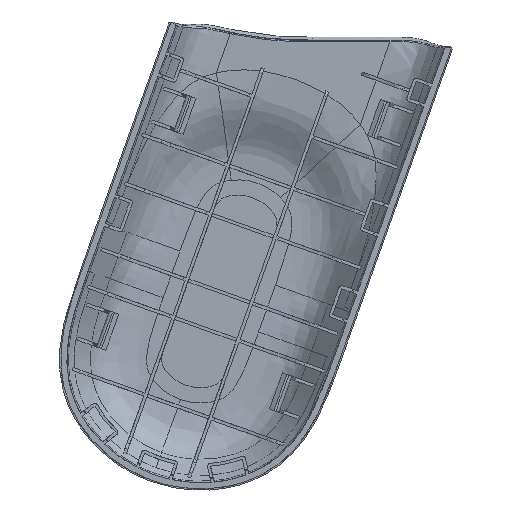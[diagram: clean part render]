
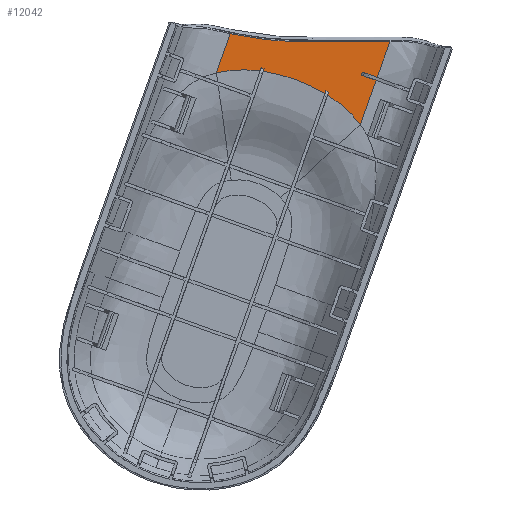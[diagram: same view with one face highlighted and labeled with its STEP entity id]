
A CAD part, left-side view. The second image highlights one B-rep face of the part: STEP entity #12042.
In plain terms, the highlighted planar face has unit normal (-1, 0, 0).
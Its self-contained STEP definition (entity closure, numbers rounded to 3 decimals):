
#648=CARTESIAN_POINT('',(264.5,130.891,595.084));
#683=CARTESIAN_POINT('',(264.5,140.587,568.009));
#717=DIRECTION('',(0.,-1.,0.));
#718=VECTOR('',#717,25.287);
#719=CARTESIAN_POINT('',(264.5,156.178,595.082));
#720=LINE('',#719,#718);
#721=DIRECTION('',(0.,0.337,-0.941));
#722=VECTOR('',#721,12.427);
#723=CARTESIAN_POINT('',(264.5,130.891,595.084));
#724=LINE('',#723,#722);
#725=DIRECTION('',(0.,0.337,-0.941));
#726=VECTOR('',#725,15.332);
#727=CARTESIAN_POINT('',(264.5,135.418,582.444));
#728=LINE('',#727,#726);
#729=CARTESIAN_POINT('',(264.5,151.271,577.621));
#730=CARTESIAN_POINT('',(264.5,149.808,576.696));
#731=CARTESIAN_POINT('',(264.5,147.065,574.751));
#732=CARTESIAN_POINT('',(264.5,143.414,571.464));
#733=CARTESIAN_POINT('',(264.5,141.459,569.184));
#734=CARTESIAN_POINT('',(264.5,140.587,568.009));
#736=CARTESIAN_POINT('',(264.5,161.879,582.706));
#737=CARTESIAN_POINT('',(264.5,160.063,582.048));
#738=CARTESIAN_POINT('',(264.5,156.625,580.631));
#739=CARTESIAN_POINT('',(264.5,153.572,579.014));
#740=CARTESIAN_POINT('',(264.5,152.142,578.155));
#742=CARTESIAN_POINT('',(264.5,172.292,585.371));
#743=CARTESIAN_POINT('',(264.5,170.657,585.129));
#744=CARTESIAN_POINT('',(264.5,167.286,584.444));
#745=CARTESIAN_POINT('',(264.5,163.715,583.353));
#746=CARTESIAN_POINT('',(264.5,161.879,582.706));
#748=CARTESIAN_POINT('',(264.5,187.66,584.868));
#749=CARTESIAN_POINT('',(264.5,186.231,585.223));
#750=CARTESIAN_POINT('',(264.5,183.26,585.744));
#751=CARTESIAN_POINT('',(264.5,178.35,585.963));
#752=CARTESIAN_POINT('',(264.5,175.01,585.725));
#753=CARTESIAN_POINT('',(264.5,173.304,585.511));
#755=CARTESIAN_POINT('',(264.5,183.081,597.652));
#756=CARTESIAN_POINT('',(264.5,180.15,597.014));
#757=CARTESIAN_POINT('',(264.5,174.232,595.959));
#758=CARTESIAN_POINT('',(264.5,165.281,595.131));
#759=CARTESIAN_POINT('',(264.5,159.204,595.082));
#760=CARTESIAN_POINT('',(264.5,156.178,595.082));
#762=CARTESIAN_POINT('',(264.5,135.081,583.385));
#797=DIRECTION('',(0.,-0.941,-0.337));
#798=VECTOR('',#797,5.177);
#799=CARTESIAN_POINT('',(264.5,139.955,585.131));
#800=LINE('',#799,#798);
#956=CARTESIAN_POINT('',(264.5,135.418,582.444));
#963=DIRECTION('',(0.,-0.941,-0.337));
#964=VECTOR('',#963,5.177);
#965=CARTESIAN_POINT('',(264.5,140.292,584.189));
#966=LINE('',#965,#964);
#995=DIRECTION('',(0.,-0.337,0.941));
#996=VECTOR('',#995,1.);
#997=CARTESIAN_POINT('',(264.5,140.292,584.189));
#998=LINE('',#997,#996);
#2574=DIRECTION('',(0.,0.337,-0.941));
#2575=VECTOR('',#2574,13.58);
#2576=CARTESIAN_POINT('',(264.5,183.081,597.652));
#2577=LINE('',#2576,#2575);
#3972=DIRECTION('',(0.,0.941,0.337));
#3973=VECTOR('',#3972,1.);
#3974=CARTESIAN_POINT('',(264.5,172.009,586.16));
#3975=LINE('',#3974,#3973);
#4007=DIRECTION('',(0.,0.337,-0.941));
#4008=VECTOR('',#4007,0.838);
#4009=CARTESIAN_POINT('',(264.5,172.009,586.16));
#4010=LINE('',#4009,#4008);
#5945=DIRECTION('',(0.,0.337,-0.941));
#5946=VECTOR('',#5945,0.837);
#5947=CARTESIAN_POINT('',(264.5,151.859,578.943));
#5948=LINE('',#5947,#5946);
#6224=DIRECTION('',(0.,0.941,0.337));
#6225=VECTOR('',#6224,1.);
#6226=CARTESIAN_POINT('',(264.5,150.918,578.606));
#6227=LINE('',#6226,#6225);
#6228=DIRECTION('',(0.,0.337,-0.941));
#6229=VECTOR('',#6228,1.046);
#6230=CARTESIAN_POINT('',(264.5,150.918,578.606));
#6231=LINE('',#6230,#6229);
#7160=DIRECTION('',(0.,0.337,-0.941));
#7161=VECTOR('',#7160,1.047);
#7162=CARTESIAN_POINT('',(264.5,172.951,586.497));
#7163=LINE('',#7162,#7161);
#9739=CARTESIAN_POINT('',(264.5,172.009,586.16));
#9740=CARTESIAN_POINT('',(264.5,172.292,585.371));
#9741=VERTEX_POINT('',#9739);
#9742=VERTEX_POINT('',#9740);
#9854=CARTESIAN_POINT('',(264.5,172.951,586.497));
#9855=CARTESIAN_POINT('',(264.5,173.304,585.511));
#9856=VERTEX_POINT('',#9854);
#9857=VERTEX_POINT('',#9855);
#10031=VERTEX_POINT('',#762);
#10032=CARTESIAN_POINT('',(264.5,139.955,585.131));
#10033=VERTEX_POINT('',#10032);
#10034=CARTESIAN_POINT('',(264.5,150.918,578.606));
#10035=CARTESIAN_POINT('',(264.5,151.271,577.621));
#10036=VERTEX_POINT('',#10034);
#10037=VERTEX_POINT('',#10035);
#10078=CARTESIAN_POINT('',(264.5,151.859,578.943));
#10079=CARTESIAN_POINT('',(264.5,152.142,578.155));
#10080=VERTEX_POINT('',#10078);
#10081=VERTEX_POINT('',#10079);
#10147=VERTEX_POINT('',#956);
#10148=CARTESIAN_POINT('',(264.5,140.292,584.189));
#10149=VERTEX_POINT('',#10148);
#10181=VERTEX_POINT('',#683);
#10182=VERTEX_POINT('',#748);
#10183=VERTEX_POINT('',#746);
#10289=VERTEX_POINT('',#648);
#10291=CARTESIAN_POINT('',(264.5,156.178,595.082));
#10292=VERTEX_POINT('',#10291);
#10295=VERTEX_POINT('',#755);
#12002=CARTESIAN_POINT('',(264.5,177.924,597.223));
#12003=DIRECTION('',(-1.,0.,0.));
#12004=DIRECTION('',(0.,0.,1.));
#12005=AXIS2_PLACEMENT_3D('',#12002,#12003,#12004);
#12006=PLANE('',#12005);
#12007=ORIENTED_EDGE('',*,*,#11992,.T.);
#12008=ORIENTED_EDGE('',*,*,#11669,.T.);
#12010=ORIENTED_EDGE('',*,*,#12009,.F.);
#12012=ORIENTED_EDGE('',*,*,#12011,.F.);
#12014=ORIENTED_EDGE('',*,*,#12013,.T.);
#12015=ORIENTED_EDGE('',*,*,#11798,.T.);
#12017=ORIENTED_EDGE('',*,*,#12016,.F.);
#12019=ORIENTED_EDGE('',*,*,#12018,.F.);
#12021=ORIENTED_EDGE('',*,*,#12020,.T.);
#12023=ORIENTED_EDGE('',*,*,#12022,.T.);
#12025=ORIENTED_EDGE('',*,*,#12024,.F.);
#12027=ORIENTED_EDGE('',*,*,#12026,.F.);
#12029=ORIENTED_EDGE('',*,*,#12028,.F.);
#12031=ORIENTED_EDGE('',*,*,#12030,.T.);
#12033=ORIENTED_EDGE('',*,*,#12032,.T.);
#12035=ORIENTED_EDGE('',*,*,#12034,.F.);
#12037=ORIENTED_EDGE('',*,*,#12036,.F.);
#12039=ORIENTED_EDGE('',*,*,#12038,.T.);
#12040=EDGE_LOOP('',(#12007,#12008,#12010,#12012,#12014,#12015,#12017,#12019,
#12021,#12023,#12025,#12027,#12029,#12031,#12033,#12035,#12037,#12039));
#12041=FACE_OUTER_BOUND('',#12040,.F.);
#12042=ADVANCED_FACE('',(#12041),#12006,.T.);
#735=B_SPLINE_CURVE_WITH_KNOTS('',3,(#729,#730,#731,#732,#733,#734),
.UNSPECIFIED.,.F.,.F.,(4,1,1,4),(0.,0.333,0.667,1.),
.UNSPECIFIED.);
#741=B_SPLINE_CURVE_WITH_KNOTS('',3,(#736,#737,#738,#739,#740),.UNSPECIFIED.,
.F.,.F.,(4,1,4),(0.,0.5,1.),.UNSPECIFIED.);
#747=B_SPLINE_CURVE_WITH_KNOTS('',3,(#742,#743,#744,#745,#746),.UNSPECIFIED.,
.F.,.F.,(4,1,4),(0.,0.5,1.),.UNSPECIFIED.);
#754=B_SPLINE_CURVE_WITH_KNOTS('',3,(#748,#749,#750,#751,#752,#753),
.UNSPECIFIED.,.F.,.F.,(4,1,1,4),(0.,0.333,0.667,1.),
.UNSPECIFIED.);
#761=B_SPLINE_CURVE_WITH_KNOTS('',3,(#755,#756,#757,#758,#759,#760),
.UNSPECIFIED.,.F.,.F.,(4,1,1,4),(0.,0.333,0.667,1.),
.UNSPECIFIED.);
#11669=EDGE_CURVE('',#10289,#10031,#724,.T.);
#11798=EDGE_CURVE('',#10147,#10181,#728,.T.);
#11992=EDGE_CURVE('',#10292,#10289,#720,.T.);
#12009=EDGE_CURVE('',#10033,#10031,#800,.T.);
#12011=EDGE_CURVE('',#10149,#10033,#998,.T.);
#12013=EDGE_CURVE('',#10149,#10147,#966,.T.);
#12016=EDGE_CURVE('',#10037,#10181,#735,.T.);
#12018=EDGE_CURVE('',#10036,#10037,#6231,.T.);
#12020=EDGE_CURVE('',#10036,#10080,#6227,.T.);
#12022=EDGE_CURVE('',#10080,#10081,#5948,.T.);
#12024=EDGE_CURVE('',#10183,#10081,#741,.T.);
#12026=EDGE_CURVE('',#9742,#10183,#747,.T.);
#12028=EDGE_CURVE('',#9741,#9742,#4010,.T.);
#12030=EDGE_CURVE('',#9741,#9856,#3975,.T.);
#12032=EDGE_CURVE('',#9856,#9857,#7163,.T.);
#12034=EDGE_CURVE('',#10182,#9857,#754,.T.);
#12036=EDGE_CURVE('',#10295,#10182,#2577,.T.);
#12038=EDGE_CURVE('',#10295,#10292,#761,.T.);
